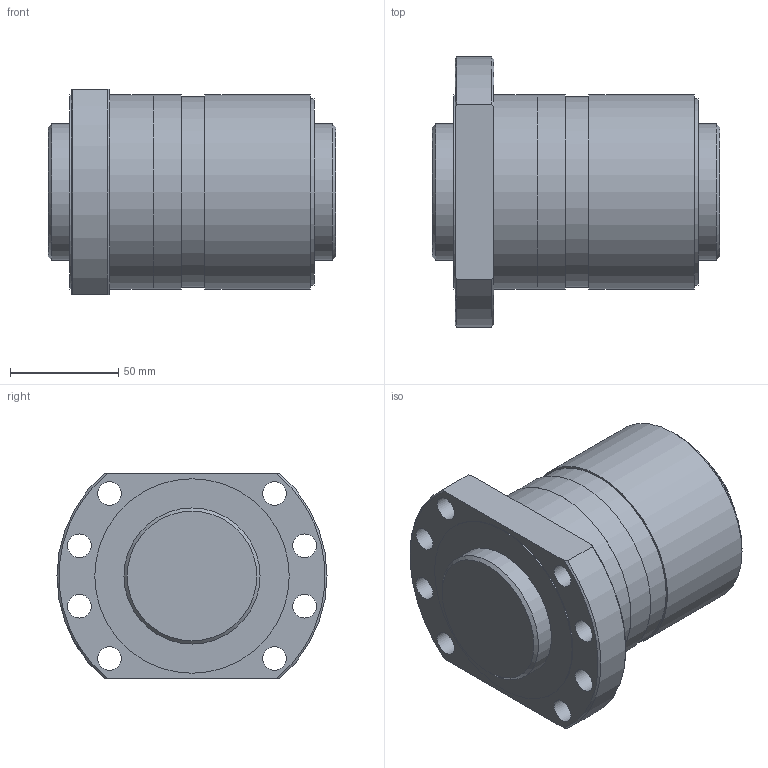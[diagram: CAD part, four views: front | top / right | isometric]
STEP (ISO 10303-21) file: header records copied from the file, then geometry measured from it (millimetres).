
FILE_DESCRIPTION(/* description */ ('STEP AP203'),/* implementation_level */ '2;1');
FILE_NAME(/* name */ 'SDAN6310VX-4G0+133LC0(0G000)',/* time_stamp */ '2024-07-04T10:22:50+02:00',/* author */ ('License CC BY-ND 4.0'),/* organization */ ('CADENAS'),/* preprocessor_version */ 'ST-DEVELOPER v19.3',/* originating_system */ 'PARTsolutions',/* authorisation */ ' ');
FILE_SCHEMA (('CONFIG_CONTROL_DESIGN'));
Length unit declared in the file: millimetre
Products named in the file (3): SDAN6310VX-4G0+133LC0(0G000); 0SDAN6310VX-40Shaft; SDAN6310VX-4_nut
Assembly tree (2 placements, depth 2):
  SDAN6310VX-4G0+133LC0(0G000)
    0SDAN6310VX-40Shaft
    SDAN6310VX-4_nut
Bounding box: 133 x 125 x 95 mm (x, y, z)
Volume: 838432 mm3; surface area: 108015.4 mm2
Topology: 2 solids, 2 shells, 39 faces, 91 edges, 63 vertices
Faces by surface type: cylinder 20, plane 13, cone 6
Full cylindrical faces by diameter (mm): 6.917 x1, 11 x8, 63 x2, 86.4 x1, 88 x1, 88.2 x1, 90 x4
Entity records: 1103 total; most frequent: CARTESIAN_POINT 202, DIRECTION 180, ORIENTED_EDGE 124, EDGE_LOOP 86, FACE_BOUND 86, AXIS2_PLACEMENT_3D 86, EDGE_CURVE 62, VERTEX_POINT 54
